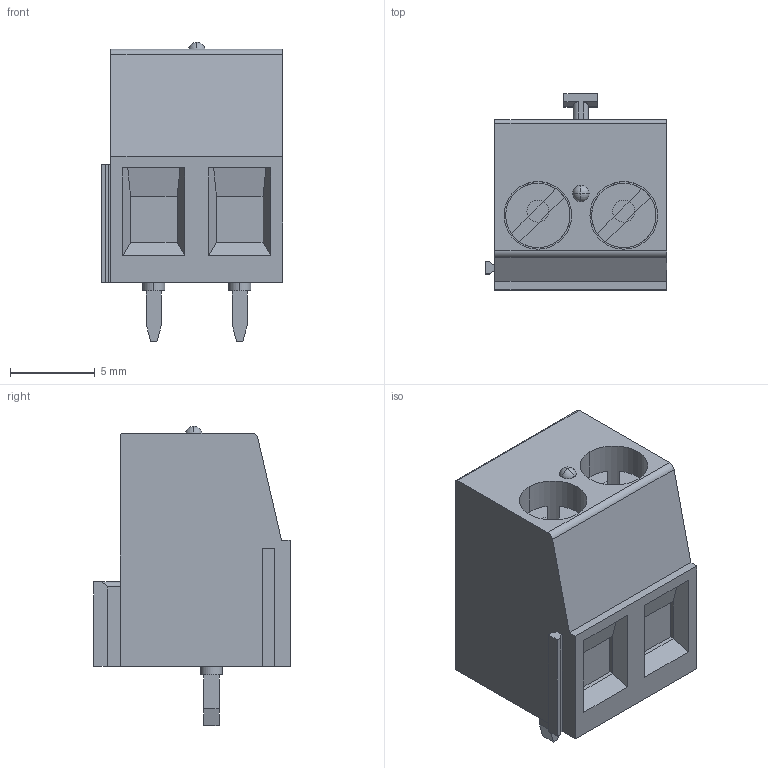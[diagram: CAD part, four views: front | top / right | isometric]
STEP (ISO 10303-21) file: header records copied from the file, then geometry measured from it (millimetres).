
FILE_DESCRIPTION(('FreeCAD Model'),'2;1');
FILE_NAME('C:/Users/cr185092/Documents/KiCAD_Projects/VORON_V2.0_Expander_option2/VORON_V2.0.pretty/3D_Models\mkds_15-2.step', '2017-11-19T14:22:48',('kicad StepUp'),('ksu MCAD'), 'Open CASCADE STEP processor 6.8','FreeCAD','Unknown');
FILE_SCHEMA(('AUTOMOTIVE_DESIGN_CC2 { 1 2 10303 214 -1 1 5 4 }'));
Length unit declared in the file: millimetre
Products named in the file (1): mkds_1,5-2
Bounding box: 10.73 x 11.6 x 17.7 mm (x, y, z)
Volume: 1266.3 mm3; surface area: 949.8 mm2
Topology: 1 solids, 1 shells, 157 faces, 393 edges, 253 vertices
Faces by surface type: plane 115, cylinder 38, sphere 4
Entity records: 5764 total; most frequent: DIRECTION 809, CARTESIAN_POINT 804, ORIENTED_EDGE 786, EDGE_CURVE 393, LINE 293, VECTOR 293, AXIS2_PLACEMENT_3D 258, VERTEX_POINT 253
